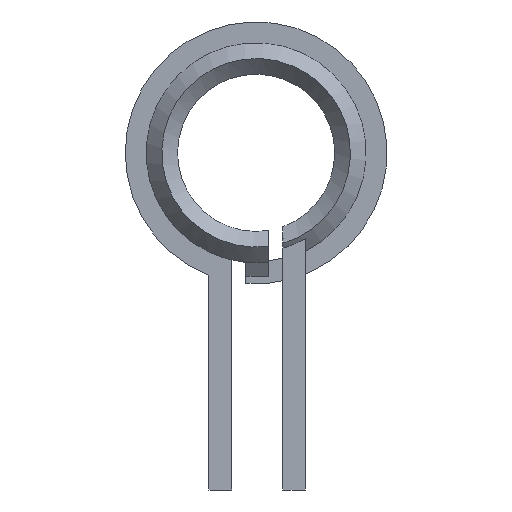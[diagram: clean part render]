
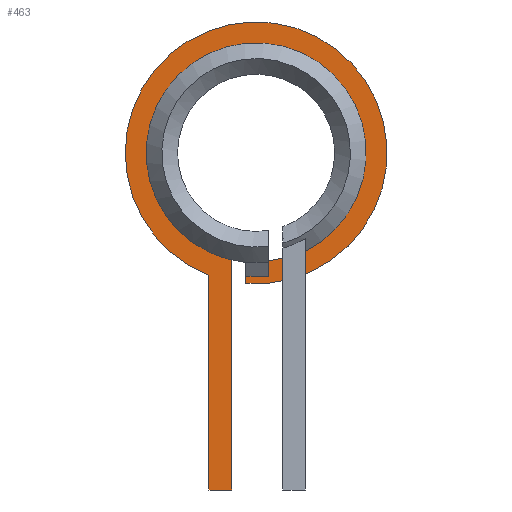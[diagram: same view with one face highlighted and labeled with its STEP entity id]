
A CAD part, front view. The second image highlights one B-rep face of the part: STEP entity #463.
In plain terms, the highlighted planar face has unit normal (0, -1, 0).
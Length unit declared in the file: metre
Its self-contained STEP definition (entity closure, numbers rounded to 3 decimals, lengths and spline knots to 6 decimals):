
#49=CIRCLE('',#516,0.059);
#50=CIRCLE('',#520,0.049);
#75=FACE_OUTER_BOUND('',#100,.T.);
#100=EDGE_LOOP('',(#412,#413,#414,#415,#416,#417,#418,#419));
#106=LINE('',#652,#143);
#120=LINE('',#768,#157);
#125=LINE('',#777,#162);
#133=LINE('',#796,#170);
#135=LINE('',#802,#172);
#137=LINE('',#806,#174);
#143=VECTOR('',#533,0.01);
#157=VECTOR('',#591,0.01);
#162=VECTOR('',#598,0.01);
#170=VECTOR('',#618,0.01);
#172=VECTOR('',#626,0.01);
#174=VECTOR('',#630,0.01);
#180=VERTEX_POINT('',#649);
#181=VERTEX_POINT('',#651);
#207=VERTEX_POINT('',#765);
#208=VERTEX_POINT('',#767);
#211=VERTEX_POINT('',#775);
#216=VERTEX_POINT('',#794);
#217=VERTEX_POINT('',#798);
#218=VERTEX_POINT('',#804);
#224=EDGE_CURVE('',#180,#181,#106,.T.);
#264=EDGE_CURVE('',#208,#207,#120,.T.);
#269=EDGE_CURVE('',#207,#211,#125,.T.);
#279=EDGE_CURVE('',#211,#216,#133,.T.);
#281=EDGE_CURVE('',#216,#217,#49,.T.);
#282=EDGE_CURVE('',#217,#181,#135,.T.);
#284=EDGE_CURVE('',#218,#180,#137,.T.);
#285=EDGE_CURVE('',#218,#208,#50,.T.);
#412=ORIENTED_EDGE('',*,*,#269,.T.);
#413=ORIENTED_EDGE('',*,*,#279,.T.);
#414=ORIENTED_EDGE('',*,*,#281,.T.);
#415=ORIENTED_EDGE('',*,*,#282,.T.);
#416=ORIENTED_EDGE('',*,*,#224,.F.);
#417=ORIENTED_EDGE('',*,*,#284,.F.);
#418=ORIENTED_EDGE('',*,*,#285,.T.);
#419=ORIENTED_EDGE('',*,*,#264,.T.);
#438=PLANE('',#521);
#463=ADVANCED_FACE('',(#75),#438,.F.);
#516=AXIS2_PLACEMENT_3D('',#800,#622,#623);
#520=AXIS2_PLACEMENT_3D('',#808,#633,#634);
#521=AXIS2_PLACEMENT_3D('',#809,#635,#636);
#533=DIRECTION('',(-1.,0.,0.));
#591=DIRECTION('',(0.,0.,-1.));
#598=DIRECTION('',(-1.,0.,0.));
#618=DIRECTION('',(0.,0.,-1.));
#622=DIRECTION('center_axis',(0.,-1.,0.));
#623=DIRECTION('ref_axis',(0.,0.,-1.));
#626=DIRECTION('',(0.,0.,-1.));
#630=DIRECTION('',(0.,0.,-1.));
#633=DIRECTION('center_axis',(0.,1.,0.));
#634=DIRECTION('ref_axis',(0.,0.,-1.));
#635=DIRECTION('center_axis',(0.,1.,0.));
#636=DIRECTION('ref_axis',(0.,0.,1.));
#649=CARTESIAN_POINT('',(-0.12345,-0.005,-0.151913));
#651=CARTESIAN_POINT('',(-0.133751,-0.005,-0.151913));
#652=CARTESIAN_POINT('',(-0.0635,-0.005,-0.151913));
#765=CARTESIAN_POINT('',(-0.107009,-0.005,-0.055512));
#767=CARTESIAN_POINT('',(-0.107009,-0.005,-0.048691));
#768=CARTESIAN_POINT('',(-0.107009,-0.005,-0.054504));
#775=CARTESIAN_POINT('',(-0.1171,-0.005,-0.055512));
#777=CARTESIAN_POINT('',(-0.117601,-0.005,-0.055512));
#794=CARTESIAN_POINT('',(-0.1171,-0.005,-0.05882));
#796=CARTESIAN_POINT('',(-0.1171,-0.005,-0.051993));
#798=CARTESIAN_POINT('',(-0.133751,-0.005,-0.05504));
#800=CARTESIAN_POINT('Origin',(-0.1125,-0.005,0.));
#802=CARTESIAN_POINT('',(-0.133751,-0.005,-0.061913));
#804=CARTESIAN_POINT('',(-0.12345,-0.005,-0.047761));
#806=CARTESIAN_POINT('',(-0.12345,-0.005,-0.061913));
#808=CARTESIAN_POINT('Origin',(-0.1125,-0.005,0.));
#809=CARTESIAN_POINT('Origin',(-0.118102,-0.005,-0.050188));
